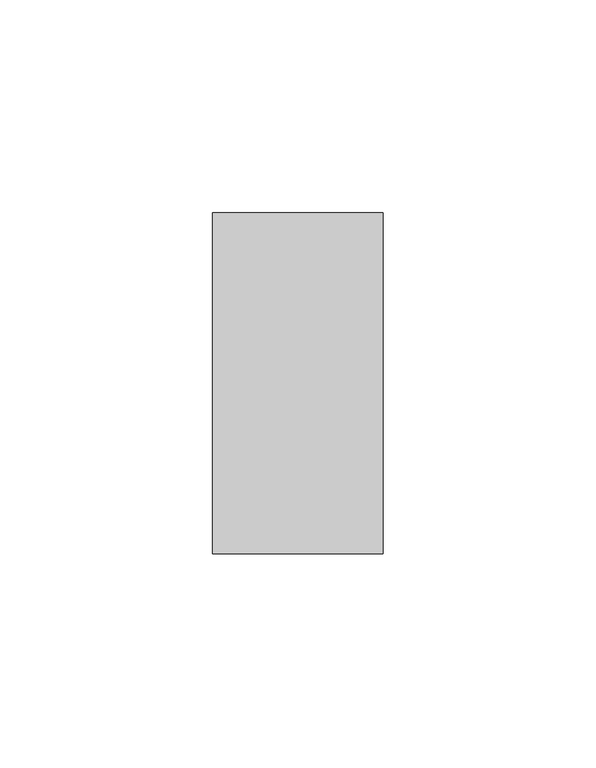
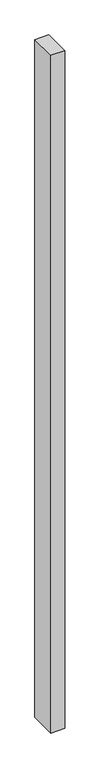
"""IFC4 building model written with IfcOpenShell, lengths in millimetres: member geometry, Obdélníková příčel : VERTI PANORAMA - vertikální."""

from ifc_helpers import new_model, si_unit, frame, origin, place, context, project, spatial, polyline, outline, extrude, source, transform, mapped, element, save


def member_b819a4e9(model_context):
    return source(origin(), model_context, "Body", "SweptSolid", [
        extrude(outline(polyline([(-40.0, 40.0), (0.0, 40.0), (0.0, -40.0), (-40.0, -40.0), (-40.0, 40.0)])), frame((0.0, 0.0, -2060.0), z_axis=(0.0, 0.0, 1.0), x_axis=(1.0, 0.0, 0.0)), (0.0, 0.0, 1.0), 2060.0),
    ])


if __name__ == "__main__":
    model = new_model("IFC4")
    model_context = context("Model", 3, world=origin())
    ifc_project = project(units=[si_unit("LENGTHUNIT", "METRE", prefix="MILLI")], contexts=[model_context])
    site = spatial("IfcSite", under=ifc_project)
    building = spatial("IfcBuilding", under=site)
    placement = place(None, origin())
    member_shape = member_b819a4e9(model_context)
    element("IfcMember", 1, ObjectType="Obdélníková příčel : VERTI PANORAMA - vertikální", at=placement, inside=building, context=model_context, shape_type="MappedRepresentation", body=[
        mapped(member_shape, transform((0.0, 0.0, 0.0), x_axis=(1.0, 0.0, 0.0), y_axis=(0.0, 1.0, 0.0), z_axis=(0.0, 0.0, 1.0))),
    ])
    save(model, "model.ifc")
